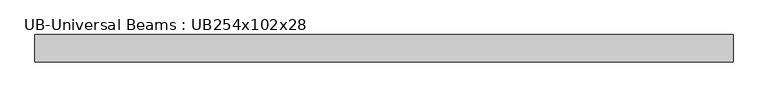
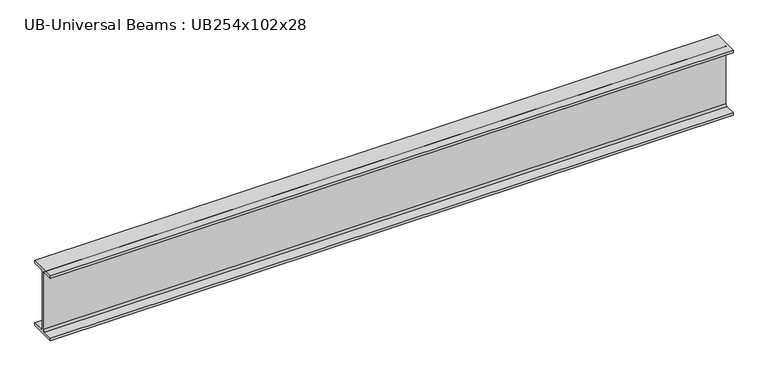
"""IFC4 building model written with IfcOpenShell, lengths in millimetres: beam geometry, UB-Universal Beams : UB254x102x28."""

from ifc_helpers import new_model, si_unit, point, frame, frame_2d, origin, place, context, project, spatial, polyline, circle_curve, trimmed, segment, composite_curve, outline, extrude, source, transform, mapped, element, save


def ub_universal_beams_ub254x102x28_93e224f7(model_context):
    return source(origin(), model_context, "Body", "SweptSolid", [
        extrude(outline(composite_curve([segment(polyline([(51.1, -120.2), (51.1, -130.2), (-51.1, -130.2), (-51.1, -120.2), (-10.75, -120.2)]), True, "CONTINUOUS"), segment(trimmed(circle_curve(frame_2d((-10.75, -112.6)), 7.6), [point((-10.75, -120.2))], [point((-3.15, -112.6))], True, "CARTESIAN"), True, "CONTINUOUS"), segment(polyline([(-3.15, -112.6), (-3.15, 112.6)]), True, "CONTINUOUS"), segment(trimmed(circle_curve(frame_2d((-10.75, 112.6)), 7.6), [point((-3.15, 112.6))], [point((-10.75, 120.2))], True, "CARTESIAN"), True, "CONTINUOUS"), segment(polyline([(-10.75, 120.2), (-51.1, 120.2), (-51.1, 130.2), (51.1, 130.2), (51.1, 120.2), (10.75, 120.2)]), True, "CONTINUOUS"), segment(trimmed(circle_curve(frame_2d((10.75, 112.6)), 7.6), [point((10.75, 120.2))], [point((3.15, 112.6))], True, "CARTESIAN"), True, "CONTINUOUS"), segment(polyline([(3.15, 112.6), (3.15, -112.6)]), True, "CONTINUOUS"), segment(trimmed(circle_curve(frame_2d((10.75, -112.6)), 7.6), [point((3.15, -112.6))], [point((10.75, -120.2))], True, "CARTESIAN"), True, "CONTINUOUS"), segment(polyline([(10.75, -120.2), (51.1, -120.2)]), True, "CONTINUOUS")], self_intersect=False)), frame((-1286.8, 0.0, 0.0), z_axis=(1.0, 0.0, 0.0), x_axis=(0.0, 1.0, 0.0)), (0.0, 0.0, 1.0), 2590.8),
    ])


if __name__ == "__main__":
    model = new_model("IFC4")
    model_context = context("Model", 3, world=origin())
    ifc_project = project(units=[si_unit("LENGTHUNIT", "METRE", prefix="MILLI")], contexts=[model_context])
    site = spatial("IfcSite", under=ifc_project)
    building = spatial("IfcBuilding", under=site)
    placement = place(None, origin())
    ub_universal_beams_ub254x102x28_shape = ub_universal_beams_ub254x102x28_93e224f7(model_context)
    element("IfcBeam", 1, ObjectType="UB-Universal Beams : UB254x102x28", at=placement, inside=building, context=model_context, shape_type="MappedRepresentation", body=[
        mapped(ub_universal_beams_ub254x102x28_shape, transform((0.0, 0.0, 0.0), x_axis=(1.0, 0.0, 0.0), y_axis=(0.0, 1.0, 0.0), z_axis=(0.0, 0.0, 1.0))),
    ])
    save(model, "model.ifc")
